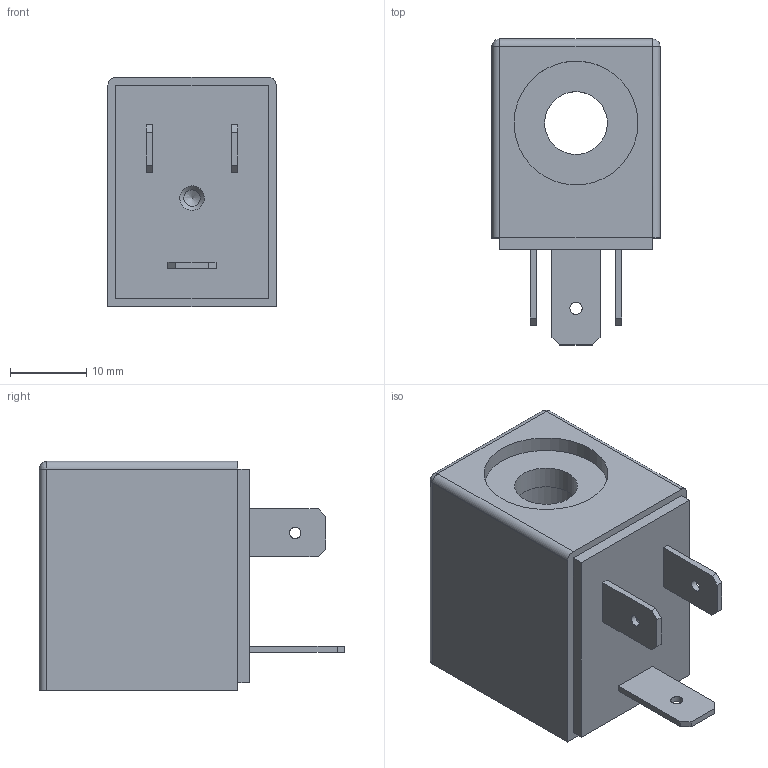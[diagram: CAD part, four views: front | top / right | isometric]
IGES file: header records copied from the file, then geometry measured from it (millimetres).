
Global section: file name: MB; native system: Autodesk Inventor 2014; preprocessor: unknown; organization: Pneumax S.p.A.; date: 20161003.114355; units: millimetre
Bounding box: 22 x 40 x 30 mm (x, y, z)
Volume: 15496.1 mm3; surface area: 5466.8 mm2
Topology: 1 solids, 1 shells, 50 faces, 131 edges, 87 vertices
Faces by surface type: bspline 50
